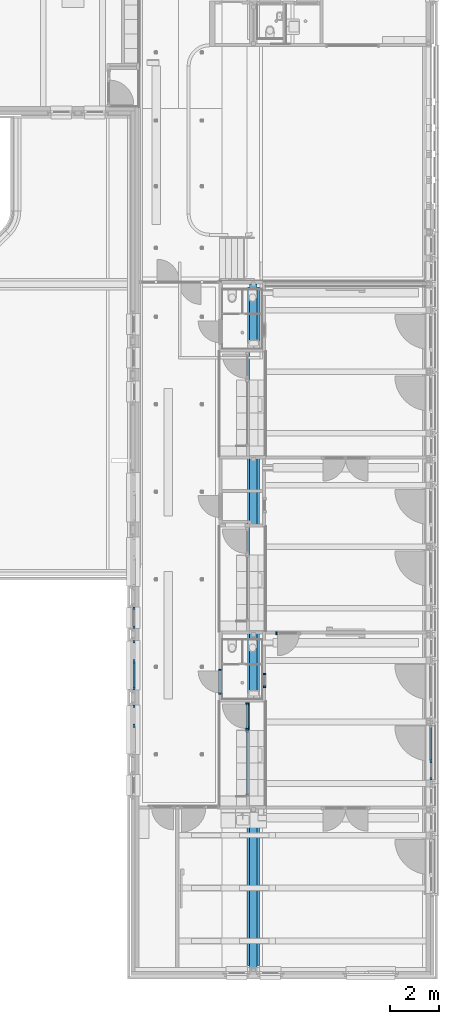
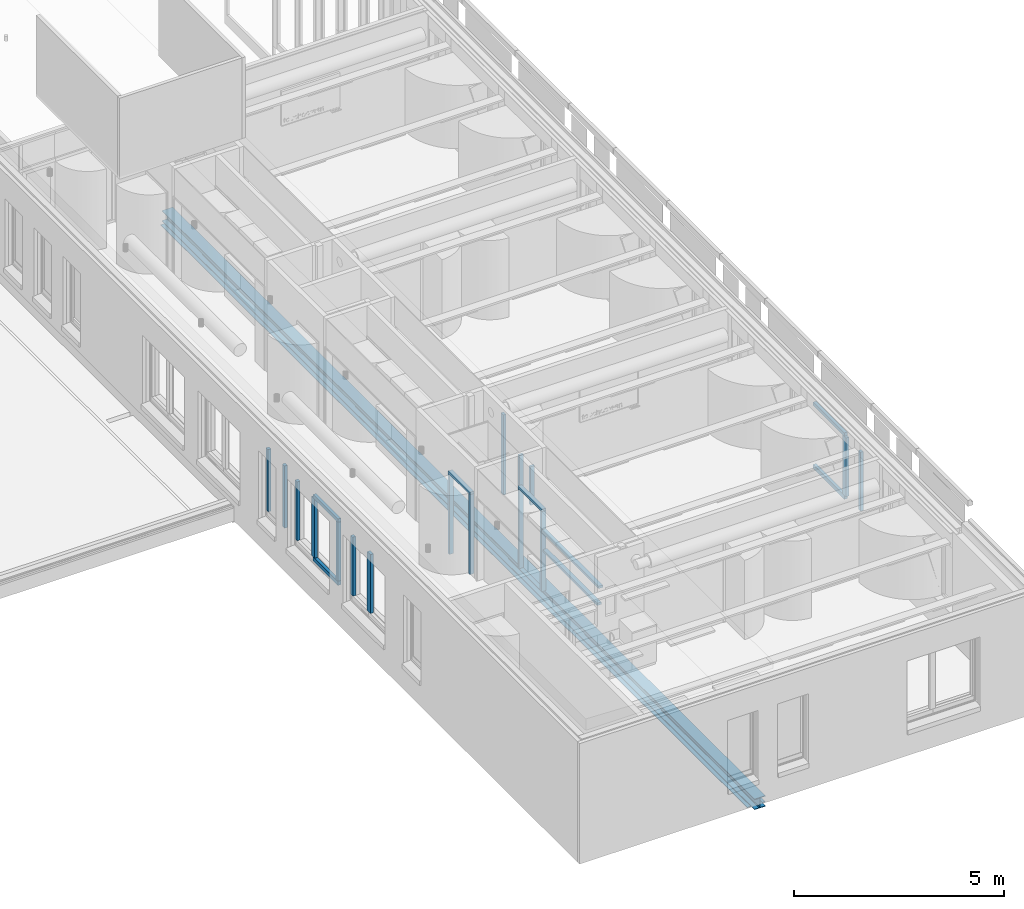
# One storey, part 7 of 128: 25 members, 1 beam, 9 elements without a shape of their own.
"""IFC2X3 building model written with IfcOpenShell, lengths in millimetres."""

from ifc_helpers import new_model, entity, si_unit, converted_unit, derived_unit, direction, frame, frame_2d, origin, origin_2d_with_axis, place, context, subcontext, project, spatial, polyline, circle_curve, parameter, trimmed, segment, composite_curve, rectangle, outline, extrude, source, transform, mapped, material, material_list, type_object, type_shapes, element, aggregate, save


model = new_model("IFC2X3")

# Units and contexts
model_context = context("Model", 3, precision=0.01, world=origin(), true_north=direction((6.123031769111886e-17, 1.0)))
body_context = subcontext(model_context, "Body", "Model", "MODEL_VIEW")
ifc_project = project(units=[si_unit("LENGTHUNIT", "METRE", prefix="MILLI"), si_unit("AREAUNIT", "SQUARE_METRE"), si_unit("VOLUMEUNIT", "CUBIC_METRE"), converted_unit("PLANEANGLEUNIT", "DEGREE", entity("IfcRatioMeasure", 0.017453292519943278), si_unit("PLANEANGLEUNIT", "RADIAN"), dimensions=[0, 0, 0, 0, 0, 0, 0]), si_unit("MASSUNIT", "GRAM", prefix="KILO"), derived_unit("MASSDENSITYUNIT", [(si_unit("MASSUNIT", "GRAM", prefix="KILO"), 1), (si_unit("LENGTHUNIT", "METRE"), -3)]), derived_unit("IONCONCENTRATIONUNIT", [(si_unit("MASSUNIT", "GRAM", prefix="KILO"), 1), (si_unit("LENGTHUNIT", "METRE"), -3)]), derived_unit("MOMENTOFINERTIAUNIT", [(si_unit("LENGTHUNIT", "METRE"), 4)]), si_unit("TIMEUNIT", "SECOND"), si_unit("FREQUENCYUNIT", "HERTZ"), si_unit("THERMODYNAMICTEMPERATUREUNIT", "DEGREE_CELSIUS"), derived_unit("THERMALTRANSMITTANCEUNIT", [(si_unit("MASSUNIT", "GRAM", prefix="KILO"), 1), (si_unit("THERMODYNAMICTEMPERATUREUNIT", "KELVIN"), -1), (si_unit("TIMEUNIT", "SECOND"), -3)]), derived_unit("THERMALCONDUCTANCEUNIT", [(si_unit("MASSUNIT", "GRAM", prefix="KILO"), 1), (si_unit("THERMODYNAMICTEMPERATUREUNIT", "KELVIN"), -1), (si_unit("TIMEUNIT", "SECOND"), -3), (si_unit("LENGTHUNIT", "METRE"), 1)]), derived_unit("VOLUMETRICFLOWRATEUNIT", [(si_unit("LENGTHUNIT", "METRE"), 3), (si_unit("TIMEUNIT", "SECOND"), -1)]), derived_unit("MASSFLOWRATEUNIT", [(si_unit("MASSUNIT", "GRAM", prefix="KILO"), 1), (si_unit("TIMEUNIT", "SECOND"), -1)]), derived_unit("ROTATIONALFREQUENCYUNIT", [(si_unit("TIMEUNIT", "SECOND"), -1)]), si_unit("ELECTRICCURRENTUNIT", "AMPERE"), si_unit("ELECTRICVOLTAGEUNIT", "VOLT"), si_unit("POWERUNIT", "WATT"), si_unit("FORCEUNIT", "NEWTON", prefix="KILO"), si_unit("ILLUMINANCEUNIT", "LUX"), si_unit("LUMINOUSFLUXUNIT", "LUMEN"), si_unit("LUMINOUSINTENSITYUNIT", "CANDELA"), derived_unit("USERDEFINED", [(si_unit("MASSUNIT", "GRAM", prefix="KILO"), -1), (si_unit("LENGTHUNIT", "METRE"), -2), (si_unit("TIMEUNIT", "SECOND"), 3), (si_unit("LUMINOUSFLUXUNIT", "LUMEN"), 1)]), derived_unit("USERDEFINED", [(si_unit("MASSUNIT", "GRAM", prefix="KILO"), 1), (si_unit("TIMEUNIT", "SECOND"), -3), (si_unit("LENGTHUNIT", "METRE"), 3), (si_unit("ELECTRICCURRENTUNIT", "AMPERE"), -2)]), derived_unit("SOUNDPOWERUNIT", [(si_unit("MASSUNIT", "GRAM", prefix="KILO"), 1), (si_unit("TIMEUNIT", "SECOND"), -3), (si_unit("LENGTHUNIT", "METRE"), 2)]), derived_unit("SOUNDPRESSUREUNIT", [(si_unit("MASSUNIT", "GRAM", prefix="KILO"), 1), (si_unit("LENGTHUNIT", "METRE"), -1), (si_unit("TIMEUNIT", "SECOND"), -2)]), derived_unit("LINEARVELOCITYUNIT", [(si_unit("LENGTHUNIT", "METRE"), 1), (si_unit("TIMEUNIT", "SECOND"), -1)]), si_unit("PRESSUREUNIT", "PASCAL"), derived_unit("USERDEFINED", [(si_unit("MASSUNIT", "GRAM", prefix="KILO"), 1), (si_unit("LENGTHUNIT", "METRE"), -2), (si_unit("TIMEUNIT", "SECOND"), -2)]), derived_unit("LINEARFORCEUNIT", [(si_unit("MASSUNIT", "GRAM", prefix="KILO"), 1), (si_unit("TIMEUNIT", "SECOND"), -2)]), derived_unit("PLANARFORCEUNIT", [(si_unit("MASSUNIT", "GRAM", prefix="KILO"), 1), (si_unit("LENGTHUNIT", "METRE"), -1), (si_unit("TIMEUNIT", "SECOND"), -2)]), derived_unit("SPECIFICHEATCAPACITYUNIT", [(si_unit("THERMODYNAMICTEMPERATUREUNIT", "KELVIN"), -1), (si_unit("LENGTHUNIT", "METRE"), 2), (si_unit("TIMEUNIT", "SECOND"), -2)]), derived_unit("HEATINGVALUEUNIT", [(si_unit("LENGTHUNIT", "METRE"), 2), (si_unit("TIMEUNIT", "SECOND"), -2)]), derived_unit("VAPORPERMEABILITYUNIT", [(si_unit("LENGTHUNIT", "METRE"), -1), (si_unit("TIMEUNIT", "SECOND"), 1)]), derived_unit("DYNAMICVISCOSITYUNIT", [(si_unit("MASSUNIT", "GRAM", prefix="KILO"), 1), (si_unit("TIMEUNIT", "SECOND"), -1), (si_unit("LENGTHUNIT", "METRE"), -1)]), derived_unit("THERMALEXPANSIONCOEFFICIENTUNIT", [(si_unit("THERMODYNAMICTEMPERATUREUNIT", "KELVIN"), -1)]), derived_unit("MODULUSOFELASTICITYUNIT", [(si_unit("MASSUNIT", "GRAM", prefix="KILO"), 1), (si_unit("LENGTHUNIT", "METRE"), -1), (si_unit("TIMEUNIT", "SECOND"), -2)]), derived_unit("ISOTHERMALMOISTURECAPACITYUNIT", [(si_unit("LENGTHUNIT", "METRE"), 3), (si_unit("MASSUNIT", "GRAM", prefix="KILO"), -1)]), derived_unit("MOISTUREDIFFUSIVITYUNIT", [(si_unit("TIMEUNIT", "SECOND"), -1), (si_unit("LENGTHUNIT", "METRE"), 2)])], contexts=[model_context])

# Site, building, storey
site_placement = place(None, frame((0.0, 300.0, 0.0)))
site = spatial("IfcSite", under=ifc_project, at=site_placement, Name="<Kadastrale nummers>", CompositionType="ELEMENT")
building_placement = place(site_placement, origin())
building = spatial("IfcBuilding", under=site, at=building_placement, CompositionType="ELEMENT")
storey_placement = place(building_placement, frame((0.0, 0.0, 3560.0000331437)))
storey = spatial("IfcBuildingStorey", under=building, at=storey_placement, Name="01 eerste verdieping", CompositionType="ELEMENT", Elevation=3560.0000331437)

# Beam
ifc_material_1 = material(Name="ISR_Staal")
ifc_material_2 = material(Name="<Unnamed>")
ifc_material_list = material_list([ifc_material_2, ifc_material_1])
beam_type = type_object("IfcBeamType", Name="NLRS_28_SF_LIB_balk SFB_gen_ASN:balk HEA320 500x15", PredefinedType="T_BEAM", material=ifc_material_list)
shared_shape_1 = source(origin(), body_context, "Body", "SweptSolid", [
    extrude(rectangle(XDim=15.000000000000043, YDim=499.99999999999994, at=frame_2d((-1.354472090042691e-13, 0.0), x_axis=(1.0, 0.0))), frame((-13990.0, 0.0, -113.50000000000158), z_axis=(1.0, 0.0, 0.0), x_axis=(0.0, 0.0, -1.0)), (0.0, 0.0, 1.0), 27914.999999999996),
    extrude(outline(composite_curve([segment(polyline([(139.4999999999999, -150.0), (155.0, -150.0)]), True, "CONTINUOUS"), segment(polyline([(155.0, -150.0), (155.0, 150.0)]), True, "CONTINUOUS"), segment(polyline([(155.0, 150.0), (139.49999999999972, 150.0)]), True, "CONTINUOUS"), segment(polyline([(139.4999999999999, 150.0), (139.49999999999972, 31.499999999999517)]), True, "CONTINUOUS"), segment(trimmed(circle_curve(frame_2d((112.49999999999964, 31.499999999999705), x_axis=(1.0, 0.0)), 27.00000000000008), [parameter(270.0000000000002)], [parameter(0.0)], True, "PARAMETER"), False, "CONTINUOUS"), segment(polyline([(112.49999999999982, 4.499999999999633), (-112.50000000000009, 4.499999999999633)]), True, "CONTINUOUS"), segment(trimmed(circle_curve(frame_2d((-112.49999999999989, 31.499999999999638), x_axis=(0.0, -1.0)), 27.00000000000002), [parameter(269.9999999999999)], [parameter(0.0)], True, "PARAMETER"), False, "CONTINUOUS"), segment(polyline([(-139.49999999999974, 31.499999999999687), (-139.49999999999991, 150.0)]), True, "CONTINUOUS"), segment(polyline([(-139.49999999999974, 150.0), (-155.0, 150.0)]), True, "CONTINUOUS"), segment(polyline([(-155.0, 150.0), (-155.0, -150.0)]), True, "CONTINUOUS"), segment(polyline([(-155.0, -150.0), (-139.49999999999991, -150.0)]), True, "CONTINUOUS"), segment(polyline([(-139.49999999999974, -150.0), (-139.49999999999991, -31.500000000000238)]), True, "CONTINUOUS"), segment(trimmed(circle_curve(frame_2d((-112.49999999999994, -31.500000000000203), x_axis=(-1.0, 0.0)), 26.99999999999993), [parameter(269.99999999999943)], [parameter(0.0)], True, "PARAMETER"), False, "CONTINUOUS"), segment(polyline([(-112.49999999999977, -4.500000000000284), (112.49999999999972, -4.500000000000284)]), True, "CONTINUOUS"), segment(trimmed(circle_curve(frame_2d((112.49999999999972, -31.500000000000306), x_axis=(0.0, 1.0)), 27.00000000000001), [parameter(269.99999999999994)], [parameter(0.0)], True, "PARAMETER"), False, "CONTINUOUS"), segment(polyline([(139.4999999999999, -31.500000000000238), (139.49999999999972, -150.0)]), True, "CONTINUOUS")], self_intersect=False)), frame((-14100.0, 0.0, 49.0), z_axis=(1.0, 0.0, 0.0), x_axis=(0.0, 0.0, -1.0)), (0.0, 0.0, 1.0), 28200.0),
])
type_shapes(beam_type, [shared_shape_1])
beam_placement = place(storey_placement, frame((41400.0, 16800.0, -214.0), z_axis=(0.0, 0.0, 1.0), x_axis=(0.0, -1.0, 0.0)))
element("IfcBeam", 1, at=beam_placement, inside=storey, type_object=beam_type, material=ifc_material_1, Name="NLRS_28_SF_LIB_balk SFB_gen_ASN:balk HEA320 500x15", ObjectType="NLRS_28_SF_LIB_balk SFB_gen_ASN:balk HEA320 500x15", context=body_context, shape_type="MappedRepresentation", body=[
    mapped(shared_shape_1, transform((0.0, 0.0, 0.0), scale=1.0)),
])

# Curtain wall, members
curtain_wall_type_1 = type_object("IfcCurtainWallType", Name="Curtain Wall:Merk H01", PredefinedType="NOTDEFINED")
curtain_wall_1_placement = place(storey_placement, frame((0.0, 0.0, -3560.0000331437)))
curtain_wall_1 = element("IfcCurtainWall", 2, at=curtain_wall_1_placement, inside=storey, type_object=curtain_wall_type_1, Name="Curtain Wall:Merk H01", ObjectType="Curtain Wall:Merk H01")
ifc_material_3 = material(Name="ISR_HPL")
member_type_1 = type_object("IfcMemberType", Name="Rectangular Mullion:31_CWM_067x114", PredefinedType="MULLION", material=ifc_material_3)
shared_shape_2 = source(origin(), body_context, "Body", "SweptSolid", [
    extrude(rectangle(XDim=113.99999999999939, YDim=67.0, at=origin_2d_with_axis()), frame((-33.5, -57.0, -1034.0), z_axis=(0.0, 0.0, 1.0), x_axis=(0.0, -1.0, 0.0)), (0.0, 0.0, 1.0), 1033.9999999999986),
])
type_shapes(member_type_1, [shared_shape_2])
member_1_placement = place(curtain_wall_1_placement, frame((40084.0, 15062.99724655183, 6040.0000331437), z_axis=(0.0, 1.0, 0.0), x_axis=(0.0, 0.0, 1.0)))
member_1 = element("IfcMember", 3, at=member_1_placement, type_object=member_type_1, material=ifc_material_3, Name="Rectangular Mullion:31_CWM_067x114", ObjectType="Rectangular Mullion:31_CWM_067x114", context=body_context, shape_type="MappedRepresentation", body=[
    mapped(shared_shape_2, transform((0.0, 0.0, 0.0), scale=1.0)),
])
member_type_2 = type_object("IfcMemberType", Name="Rectangular Mullion:31_CWM_067x114", PredefinedType="MULLION", material=ifc_material_3)
shared_shape_3 = source(origin(), body_context, "Body", "SweptSolid", [
    extrude(rectangle(XDim=113.99999999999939, YDim=67.0, at=origin_2d_with_axis()), frame((-33.5, -57.0, -2323.0), z_axis=(0.0, 0.0, 1.0), x_axis=(0.0, -1.0, 0.0)), (0.0, 0.0, 1.0), 2323.0),
])
type_shapes(member_type_2, [shared_shape_3])
member_2_placement = place(curtain_wall_1_placement, frame((40084.0, 15062.99724655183, 3650.00003501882), z_axis=(0.0, 0.0, -1.0), x_axis=(0.0, 1.0, 0.0)))
member_2 = element("IfcMember", 4, at=member_2_placement, type_object=member_type_2, material=ifc_material_3, Name="Rectangular Mullion:31_CWM_067x114", ObjectType="Rectangular Mullion:31_CWM_067x114", context=body_context, shape_type="MappedRepresentation", body=[
    mapped(shared_shape_3, transform((0.0, 0.0, 0.0), scale=1.0)),
])

# Curtain wall, member
curtain_wall_type_2 = type_object("IfcCurtainWallType", Name="Curtain Wall:Merk H09", PredefinedType="NOTDEFINED")
curtain_wall_2_placement = place(storey_placement, frame((0.0, 0.0, -3560.0000331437)))
curtain_wall_2 = element("IfcCurtainWall", 5, at=curtain_wall_2_placement, inside=storey, type_object=curtain_wall_type_2, Name="Curtain Wall:Merk H09", ObjectType="Curtain Wall:Merk H09")
member_3_placement = place(curtain_wall_2_placement, frame((41209.0, 13694.997246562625, 3650.00003501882), z_axis=(0.0, 0.0, -1.0), x_axis=(0.0, 1.0, 0.0)))
member_3 = element("IfcMember", 6, at=member_3_placement, type_object=member_type_2, material=ifc_material_3, Name="Rectangular Mullion:31_CWM_067x114", ObjectType="Rectangular Mullion:31_CWM_067x114", context=body_context, shape_type="MappedRepresentation", body=[
    mapped(shared_shape_3, transform((0.0, 0.0, 0.0), scale=1.0)),
])

curtain_wall_type_3 = type_object("IfcCurtainWallType", Name="Curtain Wall:Merk H16", PredefinedType="NOTDEFINED")
curtain_wall_3_placement = place(storey_placement, frame((0.0, 0.0, -3560.0000331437)))
curtain_wall_3 = element("IfcCurtainWall", 7, at=curtain_wall_3_placement, inside=storey, type_object=curtain_wall_type_3, Name="Curtain Wall:Merk H16", ObjectType="Curtain Wall:Merk H16")
member_4_placement = place(curtain_wall_3_placement, frame((42317.500000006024, 16603.998623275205, 3650.000035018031), z_axis=(0.0, 0.0, -1.0), x_axis=(-1.0, 0.0, 0.0)))
member_4 = element("IfcMember", 8, at=member_4_placement, type_object=member_type_2, material=ifc_material_3, Name="Rectangular Mullion:31_CWM_067x114", ObjectType="Rectangular Mullion:31_CWM_067x114", context=body_context, shape_type="MappedRepresentation", body=[
    mapped(shared_shape_3, transform((0.0, 0.0, 0.0), scale=1.0)),
])
aggregate(curtain_wall_3, [member_4])

# Member
member_type_3 = type_object("IfcMemberType", Name="Rectangular Mullion:31_CWM_067x114", PredefinedType="MULLION", material=ifc_material_3)
shared_shape_4 = source(origin(), body_context, "Body", "SweptSolid", [
    extrude(rectangle(XDim=113.9999999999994, YDim=67.0, at=frame_2d((1.0658141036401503e-14, 0.0), x_axis=(1.0, 0.0))), frame((-33.5, -57.0, -2323.0), z_axis=(0.0, 0.0, 1.0), x_axis=(0.0, -1.0, 0.0)), (0.0, 0.0, 1.0), 2323.0),
])
type_shapes(member_type_3, [shared_shape_4])
member_5_placement = place(curtain_wall_1_placement, frame((40084.0, 14028.99724655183, 5973.0000331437), z_axis=(0.0, 0.0, 1.0), x_axis=(0.0, -1.0, 0.0)))
member_5 = element("IfcMember", 9, at=member_5_placement, type_object=member_type_3, material=ifc_material_3, Name="Rectangular Mullion:31_CWM_067x114", ObjectType="Rectangular Mullion:31_CWM_067x114", context=body_context, shape_type="MappedRepresentation", body=[
    mapped(shared_shape_4, transform((0.0, 0.0, 0.0), scale=1.0)),
])

aggregate(curtain_wall_1, [member_1, member_2, member_5])

member_6_placement = place(curtain_wall_2_placement, frame((41209.0, 12560.997246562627, 5973.0000331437), z_axis=(0.0, 0.0, 1.0), x_axis=(0.0, -1.0, 0.0)))
member_6 = element("IfcMember", 10, at=member_6_placement, type_object=member_type_3, material=ifc_material_3, Name="Rectangular Mullion:31_CWM_067x114", ObjectType="Rectangular Mullion:31_CWM_067x114", context=body_context, shape_type="MappedRepresentation", body=[
    mapped(shared_shape_4, transform((0.0, 0.0, 0.0), scale=1.0)),
])

# Curtain wall, members
curtain_wall_type_4 = type_object("IfcCurtainWallType", Name="Curtain Wall:Merk H08", PredefinedType="NOTDEFINED")
curtain_wall_4_placement = place(storey_placement, frame((0.0, 0.0, -3560.0000331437)))
curtain_wall_4 = element("IfcCurtainWall", 11, at=curtain_wall_4_placement, inside=storey, type_object=curtain_wall_type_4, Name="Curtain Wall:Merk H08", ObjectType="Curtain Wall:Merk H08")
member_type_4 = type_object("IfcMemberType", Name="Rectangular Mullion:31_CWM_067x114", PredefinedType="MULLION", material=ifc_material_3)
shared_shape_5 = source(origin(), body_context, "Body", "SweptSolid", [
    extrude(rectangle(XDim=113.99999999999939, YDim=67.0, at=origin_2d_with_axis()), frame((-33.5, -57.0, -2710.0), z_axis=(0.0, 0.0, 1.0), x_axis=(0.0, -1.0, 0.0)), (0.0, 0.0, 1.0), 2710.0000000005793),
])
type_shapes(member_type_4, [shared_shape_5])
member_7_placement = place(curtain_wall_4_placement, frame((41209.0, 12560.997246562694, 5450.0000331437), z_axis=(0.0, 1.0, 0.0), x_axis=(0.0, 0.0, 1.0)))
member_7 = element("IfcMember", 12, at=member_7_placement, type_object=member_type_4, material=ifc_material_3, Name="Rectangular Mullion:31_CWM_067x114", ObjectType="Rectangular Mullion:31_CWM_067x114", context=body_context, shape_type="MappedRepresentation", body=[
    mapped(shared_shape_5, transform((0.0, 0.0, 0.0), scale=1.0)),
])
member_type_5 = type_object("IfcMemberType", Name="Rectangular Mullion:31_CWM_067x114", PredefinedType="MULLION", material=ifc_material_3)
shared_shape_6 = source(origin(), body_context, "Body", "SweptSolid", [
    extrude(rectangle(XDim=113.99999999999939, YDim=67.0, at=origin_2d_with_axis()), frame((-33.5, -57.0, -2576.0), z_axis=(0.0, 0.0, 1.0), x_axis=(0.0, -1.0, 0.0)), (0.0, 0.0, 1.0), 2576.0000000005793),
])
type_shapes(member_type_5, [shared_shape_6])
member_8_placement = place(curtain_wall_4_placement, frame((41209.0, 9917.997246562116, 4850.0000331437), z_axis=(0.0, -1.0, 0.0), x_axis=(0.0, 0.0, -1.0)))
member_8 = element("IfcMember", 13, at=member_8_placement, type_object=member_type_5, material=ifc_material_3, Name="Rectangular Mullion:31_CWM_067x114", ObjectType="Rectangular Mullion:31_CWM_067x114", context=body_context, shape_type="MappedRepresentation", body=[
    mapped(shared_shape_6, transform((0.0, 0.0, 0.0), scale=1.0)),
])
aggregate(curtain_wall_4, [member_7, member_8])

# Member
member_type_6 = type_object("IfcMemberType", Name="Rectangular Mullion:31_CWM_067x114", PredefinedType="MULLION", material=ifc_material_3)
shared_shape_7 = source(origin(), body_context, "Body", "SweptSolid", [
    extrude(rectangle(XDim=113.99999999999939, YDim=67.0, at=origin_2d_with_axis()), frame((-33.5, -57.0, -1134.0), z_axis=(0.0, 0.0, 1.0), x_axis=(0.0, -1.0, 0.0)), (0.0, 0.0, 1.0), 1133.9999999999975),
])
type_shapes(member_type_6, [shared_shape_7])
member_9_placement = place(curtain_wall_2_placement, frame((41209.0, 13694.997246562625, 6040.0000331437), z_axis=(0.0, 1.0, 0.0), x_axis=(0.0, 0.0, 1.0)))
member_9 = element("IfcMember", 14, at=member_9_placement, type_object=member_type_6, material=ifc_material_3, Name="Rectangular Mullion:31_CWM_067x114", ObjectType="Rectangular Mullion:31_CWM_067x114", context=body_context, shape_type="MappedRepresentation", body=[
    mapped(shared_shape_7, transform((0.0, 0.0, 0.0), scale=1.0)),
])

ifc_material_4 = material(Name="ISR_Kunststof_grijs")
member_type_7 = type_object("IfcMemberType", Name="Rectangular Mullion:31_CWM_020x114", PredefinedType="MULLION", material=ifc_material_4)
shared_shape_8 = source(origin(), body_context, "Body", "SweptSolid", [
    extrude(rectangle(XDim=113.9999999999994, YDim=20.0, at=frame_2d((1.0658141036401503e-14, 0.0), x_axis=(1.0, 0.0))), frame((-10.0, -57.0, -1000.0), z_axis=(0.0, 0.0, 1.0), x_axis=(0.0, -1.0, 0.0)), (0.0, 0.0, 1.0), 999.999999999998),
])
type_shapes(member_type_7, [shared_shape_8])
member_10_placement = place(curtain_wall_2_placement, frame((41209.0, 12627.997246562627, 3650.00003501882), z_axis=(0.0, -1.0, 0.0), x_axis=(0.0, 0.0, -1.0)))
member_10 = element("IfcMember", 15, at=member_10_placement, type_object=member_type_7, material=ifc_material_4, Name="Rectangular Mullion:31_CWM_020x114", ObjectType="Rectangular Mullion:31_CWM_020x114", context=body_context, shape_type="MappedRepresentation", body=[
    mapped(shared_shape_8, transform((0.0, 0.0, 0.0), scale=1.0)),
])

aggregate(curtain_wall_2, [member_6, member_9, member_10, member_3])

# Curtain wall, members
curtain_wall_type_5 = type_object("IfcCurtainWallType", Name="Curtain Wall:Merk H05", PredefinedType="NOTDEFINED")
curtain_wall_5_placement = place(storey_placement, frame((0.0, 0.0, -3560.0000331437)))
curtain_wall_5 = element("IfcCurtainWall", 16, at=curtain_wall_5_placement, inside=storey, type_object=curtain_wall_type_5, Name="Curtain Wall:Merk H05", ObjectType="Curtain Wall:Merk H05")
member_type_8 = type_object("IfcMemberType", Name="Rectangular Mullion:31_CWM_067x114", PredefinedType="MULLION", material=ifc_material_3)
shared_shape_9 = source(origin(), body_context, "Body", "SweptSolid", [
    extrude(rectangle(XDim=113.99999999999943, YDim=67.0, at=origin_2d_with_axis()), frame((-33.5, 57.0, -1123.0), z_axis=(0.0, 0.0, 1.0), x_axis=(0.0, -1.0, 0.0)), (0.0, 0.0, 1.0), 1123.0000000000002),
])
type_shapes(member_type_8, [shared_shape_9])
member_11_placement = place(curtain_wall_5_placement, frame((41801.0, 14909.998623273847, 4850.0000331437), z_axis=(0.0, 0.0, -1.0), x_axis=(0.0, 1.0, 0.0)))
member_11 = element("IfcMember", 17, at=member_11_placement, type_object=member_type_8, material=ifc_material_3, Name="Rectangular Mullion:31_CWM_067x114", ObjectType="Rectangular Mullion:31_CWM_067x114", context=body_context, shape_type="MappedRepresentation", body=[
    mapped(shared_shape_9, transform((0.0, 0.0, 0.0), scale=1.0)),
])
member_type_9 = type_object("IfcMemberType", Name="Rectangular Mullion:31_CWM_067x114", PredefinedType="MULLION", material=ifc_material_3)
shared_shape_10 = source(origin(), body_context, "Body", "SweptSolid", [
    extrude(rectangle(XDim=113.99999999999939, YDim=67.0, at=origin_2d_with_axis()), frame((-33.5, 57.0, -1123.0), z_axis=(0.0, 0.0, 1.0), x_axis=(0.0, -1.0, 0.0)), (0.0, 0.0, 1.0), 1123.0000000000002),
])
type_shapes(member_type_9, [shared_shape_10])
member_12_placement = place(curtain_wall_5_placement, frame((41801.0, 14309.998623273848, 5973.0000331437), z_axis=(0.0, 0.0, 1.0), x_axis=(0.0, -1.0, 0.0)))
member_12 = element("IfcMember", 18, at=member_12_placement, type_object=member_type_9, material=ifc_material_3, Name="Rectangular Mullion:31_CWM_067x114", ObjectType="Rectangular Mullion:31_CWM_067x114", context=body_context, shape_type="MappedRepresentation", body=[
    mapped(shared_shape_10, transform((0.0, 0.0, 0.0), scale=1.0)),
])
aggregate(curtain_wall_5, [member_11, member_12])

curtain_wall_type_6 = type_object("IfcCurtainWallType", Name="Curtain Wall:K_28", PredefinedType="NOTDEFINED")
curtain_wall_6_placement = place(storey_placement, frame((0.0, 0.0, -3560.0000331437)))
curtain_wall_6 = element("IfcCurtainWall", 19, at=curtain_wall_6_placement, inside=storey, type_object=curtain_wall_type_6, Name="Curtain Wall:K_28", ObjectType="Curtain Wall:K_28")
ifc_material_5 = material(Name="ISR_Kunststof_RAL7006")
member_type_10 = type_object("IfcMemberType", Name="Rectangular Mullion:100x83 Gealan Kubus", PredefinedType="MULLION", material=ifc_material_5)
shared_shape_11 = source(origin(), body_context, "Body", "SweptSolid", [
    extrude(rectangle(XDim=83.0, YDim=100.0, at=origin_2d_with_axis()), frame((-50.0, 41.5, -1810.0), z_axis=(0.0, 0.0, 1.0), x_axis=(0.0, -1.0, 0.0)), (0.0, 0.0, 1.0), 1810.0),
])
type_shapes(member_type_10, [shared_shape_11])
member_13_placement = place(curtain_wall_6_placement, frame((36532.0, 16750.0, 4580.000035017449), z_axis=(0.0, 0.0, -1.0), x_axis=(0.0, -1.0, 0.0)))
member_13 = element("IfcMember", 20, at=member_13_placement, type_object=member_type_10, material=ifc_material_5, Name="Rectangular Mullion:100x83 Gealan Kubus", ObjectType="Rectangular Mullion:100x83 Gealan Kubus", context=body_context, shape_type="MappedRepresentation", body=[
    mapped(shared_shape_11, transform((0.0, 0.0, 0.0), scale=1.0)),
])
member_type_11 = type_object("IfcMemberType", Name="Rectangular Mullion:100x83 Gealan Kubus", PredefinedType="MULLION", material=ifc_material_5)
shared_shape_12 = source(origin(), body_context, "Body", "SweptSolid", [
    extrude(rectangle(XDim=83.0, YDim=100.0, at=origin_2d_with_axis()), frame((-50.0, 41.5, -1810.0), z_axis=(0.0, 0.0, 1.0), x_axis=(0.0, -1.0, 0.0)), (0.0, 0.0, 1.0), 1810.0),
])
type_shapes(member_type_11, [shared_shape_12])
member_14_placement = place(curtain_wall_6_placement, frame((36532.0, 17630.0, 6390.00003501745), z_axis=(0.0, 0.0, 1.0), x_axis=(0.0, 1.0, 0.0)))
member_14 = element("IfcMember", 21, at=member_14_placement, type_object=member_type_11, material=ifc_material_5, Name="Rectangular Mullion:100x83 Gealan Kubus", ObjectType="Rectangular Mullion:100x83 Gealan Kubus", context=body_context, shape_type="MappedRepresentation", body=[
    mapped(shared_shape_12, transform((0.0, 0.0, 0.0), scale=1.0)),
])
aggregate(curtain_wall_6, [member_13, member_14])

# Curtain wall, member
curtain_wall_type_7 = type_object("IfcCurtainWallType", Name="Curtain Wall:K_22", PredefinedType="NOTDEFINED")
curtain_wall_7_placement = place(storey_placement, frame((0.0, 0.0, -3560.0000331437)))
curtain_wall_7 = element("IfcCurtainWall", 22, at=curtain_wall_7_placement, inside=storey, type_object=curtain_wall_type_7, Name="Curtain Wall:K_22", ObjectType="Curtain Wall:K_22")
member_type_12 = type_object("IfcMemberType", Name="Rectangular Mullion:100x83 Gealan Kubus", PredefinedType="MULLION", material=ifc_material_5)
shared_shape_13 = source(origin(), body_context, "Body", "SweptSolid", [
    extrude(rectangle(XDim=83.0, YDim=100.0, at=origin_2d_with_axis()), frame((-50.0, 41.5, -1483.0), z_axis=(0.0, 0.0, 1.0), x_axis=(0.0, -1.0, 0.0)), (0.0, 0.0, 1.0), 1483.0000000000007),
])
type_shapes(member_type_12, [shared_shape_13])
member_15_placement = place(curtain_wall_7_placement, frame((48668.0, 12760.0, 6390.0), z_axis=(0.0, 1.0, 0.0), x_axis=(0.0, 0.0, 1.0)))
member_15 = element("IfcMember", 23, at=member_15_placement, type_object=member_type_12, material=ifc_material_5, Name="Rectangular Mullion:100x83 Gealan Kubus", ObjectType="Rectangular Mullion:100x83 Gealan Kubus", context=body_context, shape_type="MappedRepresentation", body=[
    mapped(shared_shape_13, transform((0.0, 0.0, 0.0), scale=1.0)),
])

curtain_wall_type_8 = type_object("IfcCurtainWallType", Name="Curtain Wall:K_24", PredefinedType="NOTDEFINED")
curtain_wall_8_placement = place(storey_placement, frame((0.0, 0.0, -3560.0000331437)))
curtain_wall_8 = element("IfcCurtainWall", 24, at=curtain_wall_8_placement, inside=storey, type_object=curtain_wall_type_8, Name="Curtain Wall:K_24", ObjectType="Curtain Wall:K_24")
member_type_13 = type_object("IfcMemberType", Name="Rectangular Mullion:100x83 Gealan Kubus", PredefinedType="MULLION", material=ifc_material_5)
shared_shape_14 = source(origin(), body_context, "Body", "SweptSolid", [
    extrude(rectangle(XDim=82.99999999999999, YDim=100.0, at=origin_2d_with_axis()), frame((-50.0, 41.49999999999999, -1709.9999649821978), z_axis=(0.0, 0.0, 1.0), x_axis=(0.0, -1.0, 0.0)), (0.0, 0.0, 1.0), 1709.9999649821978),
])
type_shapes(member_type_13, [shared_shape_14])
member_16_placement = place(curtain_wall_8_placement, frame((36531.99862327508, 14210.0, 4580.000035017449), z_axis=(0.0, 0.0, -1.0), x_axis=(0.0, -1.0, 0.0)))
member_16 = element("IfcMember", 25, at=member_16_placement, type_object=member_type_13, material=ifc_material_5, Name="Rectangular Mullion:100x83 Gealan Kubus", ObjectType="Rectangular Mullion:100x83 Gealan Kubus", context=body_context, shape_type="MappedRepresentation", body=[
    mapped(shared_shape_14, transform((0.0, 0.0, 0.0), scale=1.0)),
])

# Member
member_type_14 = type_object("IfcMemberType", Name="Rectangular Mullion:100x83 Gealan Kubus", PredefinedType="MULLION", material=ifc_material_5)
shared_shape_15 = source(origin(), body_context, "Body", "SweptSolid", [
    extrude(rectangle(XDim=83.00000000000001, YDim=100.0, at=origin_2d_with_axis()), frame((-50.0, 41.50000000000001, -1709.9999649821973), z_axis=(0.0, 0.0, 1.0), x_axis=(0.0, -1.0, 0.0)), (0.0, 0.0, 1.0), 1709.9999649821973),
])
type_shapes(member_type_14, [shared_shape_15])
member_17_placement = place(curtain_wall_7_placement, frame((48668.0, 10510.0, 6290.0), z_axis=(0.0, 0.0, 1.0), x_axis=(0.0, -1.0, 0.0)))
member_17 = element("IfcMember", 26, at=member_17_placement, type_object=member_type_14, material=ifc_material_5, Name="Rectangular Mullion:100x83 Gealan Kubus", ObjectType="Rectangular Mullion:100x83 Gealan Kubus", context=body_context, shape_type="MappedRepresentation", body=[
    mapped(shared_shape_15, transform((0.0, 0.0, 0.0), scale=1.0)),
])

# Curtain wall, member
curtain_wall_9_placement = place(storey_placement, frame((0.0, 0.0, -3560.0000331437)))
curtain_wall_9 = element("IfcCurtainWall", 27, at=curtain_wall_9_placement, inside=storey, type_object=curtain_wall_type_8, Name="Curtain Wall:K_24", ObjectType="Curtain Wall:K_24")
member_18_placement = place(curtain_wall_9_placement, frame((36531.99862327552, 13600.0, 6290.000035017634), z_axis=(0.0, 0.0, 1.0), x_axis=(0.0, 1.0, 0.0)))
member_18 = element("IfcMember", 28, at=member_18_placement, type_object=member_type_14, material=ifc_material_5, Name="Rectangular Mullion:100x83 Gealan Kubus", ObjectType="Rectangular Mullion:100x83 Gealan Kubus", context=body_context, shape_type="MappedRepresentation", body=[
    mapped(shared_shape_15, transform((0.0, 0.0, 0.0), scale=1.0)),
])

# Member
member_19_placement = place(curtain_wall_8_placement, frame((36531.99862327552, 16250.0, 6290.000035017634), z_axis=(0.0, 0.0, 1.0), x_axis=(0.0, 1.0, 0.0)))
member_19 = element("IfcMember", 29, at=member_19_placement, type_object=member_type_14, material=ifc_material_5, Name="Rectangular Mullion:100x83 Gealan Kubus", ObjectType="Rectangular Mullion:100x83 Gealan Kubus", context=body_context, shape_type="MappedRepresentation", body=[
    mapped(shared_shape_15, transform((0.0, 0.0, 0.0), scale=1.0)),
])

member_type_15 = type_object("IfcMemberType", Name="Rectangular Mullion:120x83 Gealan Kubus", PredefinedType="MULLION", material=ifc_material_5)
shared_shape_16 = source(origin(), body_context, "Body", "SweptSolid", [
    extrude(rectangle(XDim=83.00000000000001, YDim=120.0, at=origin_2d_with_axis()), frame((-60.0, 41.50000000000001, -1483.0), z_axis=(0.0, 0.0, 1.0), x_axis=(0.0, -1.0, 0.0)), (0.0, 0.0, 1.0), 1483.0000000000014),
])
type_shapes(member_type_15, [shared_shape_16])
member_20_placement = place(curtain_wall_7_placement, frame((48668.0, 11277.0, 4460.000035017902), z_axis=(0.0, -1.0, 0.0), x_axis=(0.0, 0.0, -1.0)))
member_20 = element("IfcMember", 30, at=member_20_placement, type_object=member_type_15, material=ifc_material_5, Name="Rectangular Mullion:120x83 Gealan Kubus", ObjectType="Rectangular Mullion:120x83 Gealan Kubus", context=body_context, shape_type="MappedRepresentation", body=[
    mapped(shared_shape_16, transform((0.0, 0.0, 0.0), scale=1.0)),
])

member_type_16 = type_object("IfcMemberType", Name="Rectangular Mullion:154x83 Gealan Kubus", PredefinedType="MULLION", material=ifc_material_5)
shared_shape_17 = source(origin(), body_context, "Body", "SweptSolid", [
    extrude(rectangle(XDim=83.00000000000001, YDim=154.0, at=origin_2d_with_axis()), frame((0.0, 41.50000000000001, -1710.0), z_axis=(0.0, 0.0, 1.0), x_axis=(0.0, -1.0, 0.0)), (0.0, 0.0, 1.0), 1710.0000000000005),
])
type_shapes(member_type_16, [shared_shape_17])
member_21_placement = place(curtain_wall_7_placement, frame((48668.0, 11277.0, 4580.0000331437), z_axis=(0.0, 0.0, -1.0), x_axis=(0.0, 1.0, 0.0)))
member_21 = element("IfcMember", 31, at=member_21_placement, type_object=member_type_16, material=ifc_material_5, Name="Rectangular Mullion:154x83 Gealan Kubus", ObjectType="Rectangular Mullion:154x83 Gealan Kubus", context=body_context, shape_type="MappedRepresentation", body=[
    mapped(shared_shape_17, transform((0.0, 0.0, 0.0), scale=1.0)),
])

aggregate(curtain_wall_7, [member_15, member_17, member_20, member_21])

member_22_placement = place(curtain_wall_9_placement, frame((36531.998623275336, 12743.0, 4580.000035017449), z_axis=(0.0, 0.0, -1.0), x_axis=(0.0, -1.0, 0.0)))
member_22 = element("IfcMember", 32, at=member_22_placement, type_object=member_type_16, material=ifc_material_5, Name="Rectangular Mullion:154x83 Gealan Kubus", ObjectType="Rectangular Mullion:154x83 Gealan Kubus", context=body_context, shape_type="MappedRepresentation", body=[
    mapped(shared_shape_17, transform((0.0, 0.0, 0.0), scale=1.0)),
])

aggregate(curtain_wall_9, [member_18, member_22])

member_23_placement = place(curtain_wall_8_placement, frame((36531.998623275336, 15393.0, 4580.000035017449), z_axis=(0.0, 0.0, -1.0), x_axis=(0.0, -1.0, 0.0)))
member_23 = element("IfcMember", 33, at=member_23_placement, type_object=member_type_16, material=ifc_material_5, Name="Rectangular Mullion:154x83 Gealan Kubus", ObjectType="Rectangular Mullion:154x83 Gealan Kubus", context=body_context, shape_type="MappedRepresentation", body=[
    mapped(shared_shape_17, transform((0.0, 0.0, 0.0), scale=1.0)),
])

member_type_17 = type_object("IfcMemberType", Name="Rectangular Mullion:100x83 Gealan Kubus", PredefinedType="MULLION", material=ifc_material_5)
shared_shape_18 = source(origin(), body_context, "Body", "SweptSolid", [
    extrude(rectangle(XDim=83.0, YDim=100.0, at=origin_2d_with_axis()), frame((-50.0, 41.5, -1183.0), z_axis=(0.0, 0.0, 1.0), x_axis=(0.0, -1.0, 0.0)), (0.0, 0.0, 1.0), 1183.0000000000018),
])
type_shapes(member_type_17, [shared_shape_18])
member_24_placement = place(curtain_wall_8_placement, frame((36531.99862327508, 14210.0, 6390.000035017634), z_axis=(0.0, -1.0, 0.0), x_axis=(0.0, 0.0, 1.0)))
member_24 = element("IfcMember", 34, at=member_24_placement, type_object=member_type_17, material=ifc_material_5, Name="Rectangular Mullion:100x83 Gealan Kubus", ObjectType="Rectangular Mullion:100x83 Gealan Kubus", context=body_context, shape_type="MappedRepresentation", body=[
    mapped(shared_shape_18, transform((0.0, 0.0, 0.0), scale=1.0)),
])

member_type_18 = type_object("IfcMemberType", Name="Rectangular Mullion:120x83 Gealan Kubus", PredefinedType="MULLION", material=ifc_material_5)
shared_shape_19 = source(origin(), body_context, "Body", "SweptSolid", [
    extrude(rectangle(XDim=83.00000000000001, YDim=120.0, at=origin_2d_with_axis()), frame((-60.0, 41.50000000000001, -1183.0), z_axis=(0.0, 0.0, 1.0), x_axis=(0.0, -1.0, 0.0)), (0.0, 0.0, 1.0), 1183.0000000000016),
])
type_shapes(member_type_18, [shared_shape_19])
member_25_placement = place(curtain_wall_8_placement, frame((36531.998623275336, 15393.0, 4460.000035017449), z_axis=(0.0, 1.0, 0.0), x_axis=(0.0, 0.0, -1.0)))
member_25 = element("IfcMember", 35, at=member_25_placement, type_object=member_type_18, material=ifc_material_5, Name="Rectangular Mullion:120x83 Gealan Kubus", ObjectType="Rectangular Mullion:120x83 Gealan Kubus", context=body_context, shape_type="MappedRepresentation", body=[
    mapped(shared_shape_19, transform((0.0, 0.0, 0.0), scale=1.0)),
])

aggregate(curtain_wall_8, [member_24, member_16, member_19, member_25, member_23])

save(model, "model.ifc")
